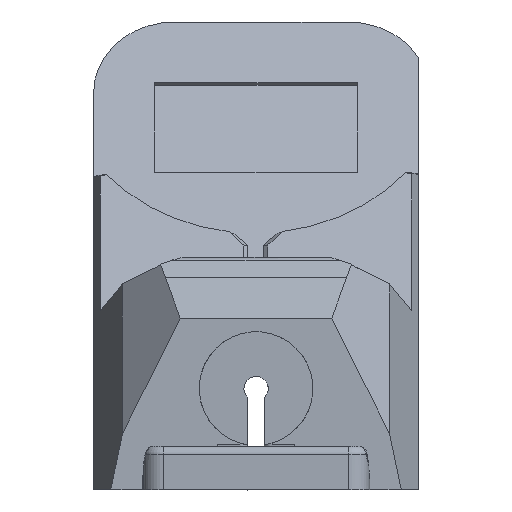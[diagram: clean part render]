
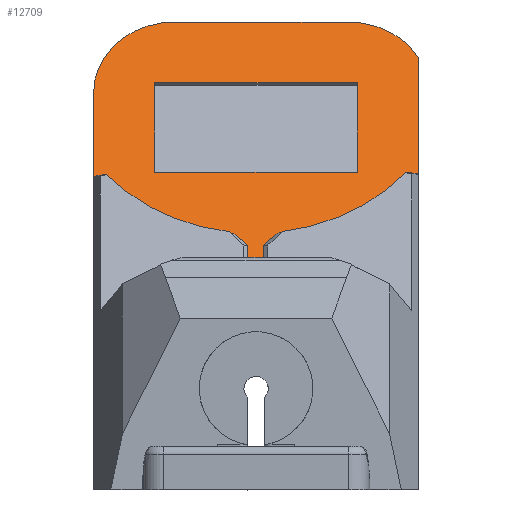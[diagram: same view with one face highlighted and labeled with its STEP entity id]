
A CAD part, front view. The second image highlights one B-rep face of the part: STEP entity #12709.
In plain terms, the highlighted planar face has unit normal (0, -0.866, 0.5).
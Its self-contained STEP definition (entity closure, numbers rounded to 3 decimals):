
#42=FACE_BOUND('',#1653,.T.);
#76=B_SPLINE_CURVE_WITH_KNOTS('',3,(#20555,#20556,#20557,#20558,#20559,
#20560),.UNSPECIFIED.,.F.,.F.,(4,2,4),(0.,0.062,0.124),
 .UNSPECIFIED.);
#513=PLANE('',#13541);
#968=FACE_OUTER_BOUND('',#1652,.T.);
#1652=EDGE_LOOP('',(#10228,#10229,#10230,#10231,#10232,#10233,#10234,#10235,
#10236,#10237,#10238,#10239,#10240,#10241,#10242));
#1653=EDGE_LOOP('',(#10243,#10244,#10245,#10246));
#1985=CIRCLE('',#13531,20.);
#1988=CIRCLE('',#13539,20.);
#1989=CIRCLE('',#13542,48.5);
#1990=CIRCLE('',#13543,48.5);
#2010=LINE('',#17673,#3336);
#2018=LINE('',#17690,#3344);
#2022=LINE('',#17698,#3348);
#2025=LINE('',#17704,#3351);
#2028=LINE('',#17709,#3354);
#2167=LINE('',#18087,#3493);
#3006=LINE('',#20538,#4332);
#3009=LINE('',#20546,#4335);
#3013=LINE('',#20553,#4339);
#3014=LINE('',#20564,#4340);
#3015=LINE('',#20565,#4341);
#3016=LINE('',#20567,#4342);
#3017=LINE('',#20571,#4343);
#3018=LINE('',#20572,#4344);
#3336=VECTOR('',#14145,10.);
#3344=VECTOR('',#14159,10.);
#3348=VECTOR('',#14165,10.);
#3351=VECTOR('',#14170,10.);
#3354=VECTOR('',#14175,10.);
#3493=VECTOR('',#14468,10.);
#4332=VECTOR('',#16173,10.);
#4335=VECTOR('',#16182,10.);
#4339=VECTOR('',#16188,10.);
#4340=VECTOR('',#16191,10.);
#4341=VECTOR('',#16192,10.);
#4342=VECTOR('',#16193,10.);
#4343=VECTOR('',#16196,10.);
#4344=VECTOR('',#16197,10.);
#5041=VERTEX_POINT('',#17670);
#5042=VERTEX_POINT('',#17672);
#5047=VERTEX_POINT('',#17688);
#5048=VERTEX_POINT('',#17689);
#5051=VERTEX_POINT('',#17697);
#5053=VERTEX_POINT('',#17703);
#5184=VERTEX_POINT('',#18082);
#5805=VERTEX_POINT('',#20513);
#5806=VERTEX_POINT('',#20514);
#5814=VERTEX_POINT('',#20537);
#5815=VERTEX_POINT('',#20541);
#5816=VERTEX_POINT('',#20545);
#5818=VERTEX_POINT('',#20552);
#5819=VERTEX_POINT('',#20554);
#5820=VERTEX_POINT('',#20561);
#5821=VERTEX_POINT('',#20563);
#5822=VERTEX_POINT('',#20566);
#5823=VERTEX_POINT('',#20568);
#5824=VERTEX_POINT('',#20570);
#6280=EDGE_CURVE('',#5041,#5042,#2010,.T.);
#6288=EDGE_CURVE('',#5047,#5048,#2018,.T.);
#6292=EDGE_CURVE('',#5051,#5047,#2022,.T.);
#6295=EDGE_CURVE('',#5053,#5051,#2025,.T.);
#6298=EDGE_CURVE('',#5048,#5053,#2028,.T.);
#6476=EDGE_CURVE('',#5184,#5042,#2167,.T.);
#7436=EDGE_CURVE('',#5805,#5806,#1985,.T.);
#7448=EDGE_CURVE('',#5806,#5814,#3006,.T.);
#7450=EDGE_CURVE('',#5814,#5815,#1988,.T.);
#7452=EDGE_CURVE('',#5816,#5815,#3009,.T.);
#7456=EDGE_CURVE('',#5818,#5805,#3013,.T.);
#7457=EDGE_CURVE('',#5819,#5818,#76,.F.);
#7458=EDGE_CURVE('',#5820,#5819,#1989,.T.);
#7459=EDGE_CURVE('',#5820,#5821,#3014,.T.);
#7460=EDGE_CURVE('',#5184,#5821,#3015,.T.);
#7461=EDGE_CURVE('',#5041,#5822,#3016,.T.);
#7462=EDGE_CURVE('',#5823,#5822,#1990,.T.);
#7463=EDGE_CURVE('',#5824,#5823,#3017,.F.);
#7464=EDGE_CURVE('',#5816,#5824,#3018,.T.);
#10228=ORIENTED_EDGE('',*,*,#7436,.F.);
#10229=ORIENTED_EDGE('',*,*,#7456,.F.);
#10230=ORIENTED_EDGE('',*,*,#7457,.F.);
#10231=ORIENTED_EDGE('',*,*,#7458,.F.);
#10232=ORIENTED_EDGE('',*,*,#7459,.T.);
#10233=ORIENTED_EDGE('',*,*,#7460,.F.);
#10234=ORIENTED_EDGE('',*,*,#6476,.T.);
#10235=ORIENTED_EDGE('',*,*,#6280,.F.);
#10236=ORIENTED_EDGE('',*,*,#7461,.T.);
#10237=ORIENTED_EDGE('',*,*,#7462,.F.);
#10238=ORIENTED_EDGE('',*,*,#7463,.F.);
#10239=ORIENTED_EDGE('',*,*,#7464,.F.);
#10240=ORIENTED_EDGE('',*,*,#7452,.T.);
#10241=ORIENTED_EDGE('',*,*,#7450,.F.);
#10242=ORIENTED_EDGE('',*,*,#7448,.F.);
#10243=ORIENTED_EDGE('',*,*,#6288,.T.);
#10244=ORIENTED_EDGE('',*,*,#6298,.T.);
#10245=ORIENTED_EDGE('',*,*,#6295,.T.);
#10246=ORIENTED_EDGE('',*,*,#6292,.T.);
#12709=ADVANCED_FACE('',(#968,#42),#513,.T.);
#13531=AXIS2_PLACEMENT_3D('',#20515,#16151,#16152);
#13539=AXIS2_PLACEMENT_3D('',#20542,#16177,#16178);
#13541=AXIS2_PLACEMENT_3D('',#20551,#16186,#16187);
#13542=AXIS2_PLACEMENT_3D('',#20562,#16189,#16190);
#13543=AXIS2_PLACEMENT_3D('',#20569,#16194,#16195);
#14145=DIRECTION('',(0.,-0.5,-0.866));
#14159=DIRECTION('',(0.,-0.5,-0.866));
#14165=DIRECTION('',(1.,0.,0.));
#14170=DIRECTION('',(0.,0.5,0.866));
#14175=DIRECTION('',(-1.,0.,0.));
#14468=DIRECTION('',(1.,0.,0.));
#16151=DIRECTION('center_axis',(0.,0.866,-0.5));
#16152=DIRECTION('ref_axis',(-1.,0.,0.));
#16173=DIRECTION('',(1.,0.,0.));
#16177=DIRECTION('center_axis',(0.,0.866,-0.5));
#16178=DIRECTION('ref_axis',(1.,0.,0.));
#16182=DIRECTION('',(0.,0.5,0.866));
#16186=DIRECTION('center_axis',(0.,-0.866,0.5));
#16187=DIRECTION('ref_axis',(1.,0.,0.));
#16188=DIRECTION('',(0.,0.5,0.866));
#16189=DIRECTION('center_axis',(0.,0.866,-0.5));
#16190=DIRECTION('ref_axis',(1.,0.,0.));
#16191=DIRECTION('',(0.682,-0.365,-0.633));
#16192=DIRECTION('',(0.,0.5,0.866));
#16193=DIRECTION('',(0.68,0.367,0.635));
#16194=DIRECTION('center_axis',(0.,0.866,-0.5));
#16195=DIRECTION('ref_axis',(1.,0.,0.));
#16196=DIRECTION('',(0.953,-0.151,-0.261));
#16197=DIRECTION('',(0.,-0.5,-0.866));
#17670=CARTESIAN_POINT('',(1.934,44.038,49.711));
#17672=CARTESIAN_POINT('',(1.934,42.389,46.856));
#17673=CARTESIAN_POINT('',(1.934,46.526,54.02));
#17688=CARTESIAN_POINT('',(24.999,70.398,95.349));
#17689=CARTESIAN_POINT('',(25.001,57.645,73.267));
#17690=CARTESIAN_POINT('',(24.999,67.334,90.044));
#17697=CARTESIAN_POINT('',(-25.001,70.39,95.349));
#17698=CARTESIAN_POINT('',(-12.617,70.392,95.349));
#17703=CARTESIAN_POINT('',(-24.999,57.637,73.267));
#17704=CARTESIAN_POINT('',(-25.,60.95,79.003));
#17709=CARTESIAN_POINT('',(12.385,57.643,73.267));
#18082=CARTESIAN_POINT('',(-2.066,42.388,46.856));
#18087=CARTESIAN_POINT('',(-0.148,42.388,46.856));
#20513=CARTESIAN_POINT('',(-40.,69.014,92.97));
#20514=CARTESIAN_POINT('',(-20.,79.018,110.288));
#20515=CARTESIAN_POINT('Origin',(-20.,69.016,92.969));
#20537=CARTESIAN_POINT('',(22.681,79.023,110.285));
#20538=CARTESIAN_POINT('',(-0.115,79.021,110.286));
#20541=CARTESIAN_POINT('',(40.002,74.024,101.624));
#20542=CARTESIAN_POINT('Origin',(22.681,69.021,92.966));
#20545=CARTESIAN_POINT('',(40.,61.436,79.827));
#20546=CARTESIAN_POINT('',(39.999,55.738,69.96));
#20551=CARTESIAN_POINT('Origin',(-0.232,64.267,84.739));
#20552=CARTESIAN_POINT('',(-40.,54.879,68.494));
#20553=CARTESIAN_POINT('',(-40.,32.442,29.643));
#20554=CARTESIAN_POINT('',(-38.822,55.071,68.827));
#20555=CARTESIAN_POINT('Ctrl Pts',(-40.,54.879,68.494));
#20556=CARTESIAN_POINT('Ctrl Pts',(-39.804,54.911,68.55));
#20557=CARTESIAN_POINT('Ctrl Pts',(-39.607,54.943,68.605));
#20558=CARTESIAN_POINT('Ctrl Pts',(-39.214,55.007,68.716));
#20559=CARTESIAN_POINT('Ctrl Pts',(-39.018,55.039,68.771));
#20560=CARTESIAN_POINT('Ctrl Pts',(-38.822,55.071,68.827));
#20561=CARTESIAN_POINT('',(-5.059,45.633,52.476));
#20562=CARTESIAN_POINT('Origin',(-0.233,69.769,94.266));
#20563=CARTESIAN_POINT('',(-2.066,44.03,49.699));
#20564=CARTESIAN_POINT('',(-12.48,49.608,59.36));
#20565=CARTESIAN_POINT('',(-2.066,46.526,54.021));
#20566=CARTESIAN_POINT('',(4.925,45.652,52.505));
#20567=CARTESIAN_POINT('',(12.265,49.612,59.36));
#20568=CARTESIAN_POINT('',(38.849,55.411,69.393));
#20569=CARTESIAN_POINT('Origin',(-0.233,69.769,94.266));
#20570=CARTESIAN_POINT('',(40.,55.228,69.078));
#20571=CARTESIAN_POINT('',(18.827,58.578,74.883));
#20572=CARTESIAN_POINT('',(40.,38.854,40.724));
